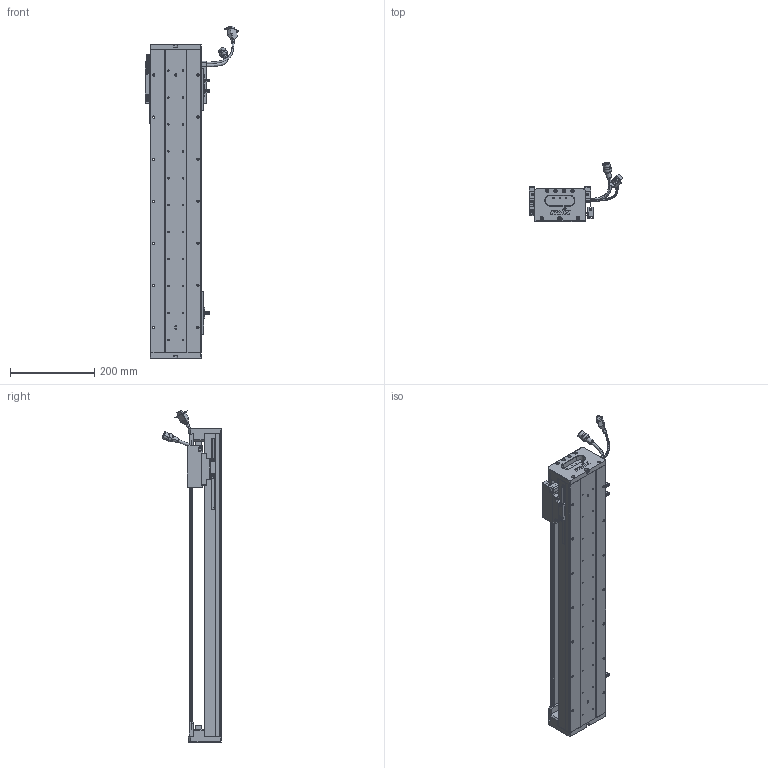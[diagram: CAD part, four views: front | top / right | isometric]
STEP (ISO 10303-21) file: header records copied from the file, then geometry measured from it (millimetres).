
FILE_DESCRIPTION (( 'STEP AP203' ), '1' );
FILE_NAME ('Z1-RY120D-1-L500-B-K.SLDASM_0550.step', '2021-05-17T03:44:56', ( '盈信电脑' ), ( '东莞市道滘镇水果街19号' ), 'SwSTEP 2.0', 'SolidWorks 2016', '' );
FILE_SCHEMA (( 'CONFIG_CONTROL_DESIGN' ));
Length unit declared in the file: millimetre
Products named in the file (37): SEAL; SCREW-M1.6-2; 140蚥薯蝶輸; Z1-RY120D-1-L500-B-K.SLDASM_0550; LABEL; SCALE; 140雄赽晤鎢ん堤盄; SHIELDPLATE; SCREW-M1.6; HARNESS; Z-RY120D詩湍奻揤裔; SCALE-Part-2; HARNESS-Part-2; Z1-RY120-L500詩湍100mm遵_0550; PBU_SHEET; HARNESS-Part-1; SEAL-Part-1; HOLDER0; PSLH080_PSLF2; 覜茼ん672; SCREW-M1.7; 080黍杅芛假蚾釱21遴; Z1-RY120铝滑块（21款）; LABEL-Part-1; 672嫖萇羲壽假蚾釱; SCREW-M1.6-3; 榋妏寠巭燃_暯_M2_2; 120-Z-臏賑輸盄裔(21遴); SCREW-M1.6-1; COVER-Part-1; Z-RY120D詩湍狟揤裔; Z1-RY120-500-倰第菁釱_0550; Z-120詩湍傷裔啣; COVER; SCREW-M1.7-1; RY100FB-遵嫖萇覜茼え; SCALE-Part-1
Assembly tree (43 placements, depth 4):
  Z1-RY120D-1-L500-B-K.SLDASM_0550
    Z1-RY120-500-倰第菁釱_0550
    覜茼ん672  x3
    672嫖萇羲壽假蚾釱  x2
    Z1-RY120铝滑块（21款）
    PSLH080_PSLF2
      SCALE
        SCALE-Part-1
        SCALE-Part-2
      HARNESS
        HARNESS-Part-1
        HARNESS-Part-2
      LABEL
        LABEL-Part-1
      COVER
        COVER-Part-1
      SEAL
        SEAL-Part-1
      榋妏寠巭燃_暯_M2_2
      SHIELDPLATE
      SCREW-M1.7
      SCREW-M1.7-1
      PBU_SHEET
      SCREW-M1.6
      SCREW-M1.6-1
      SCREW-M1.6-2
      SCREW-M1.6-3
      HOLDER0
    080黍杅芛假蚾釱21遴
    120-Z-臏賑輸盄裔(21遴)
    140雄赽晤鎢ん堤盄
    140蚥薯蝶輸  x2
    RY100FB-遵嫖萇覜茼え
    Z-120詩湍傷裔啣  x2
    Z-RY120D詩湍奻揤裔  x2
    Z-RY120D詩湍狟揤裔  x2
    Z1-RY120-L500詩湍100mm遵_0550
Bounding box: 222.88 x 140.94 x 789 mm (x, y, z)
Volume: 2147853.6 mm3; surface area: 744695.3 mm2
Topology: 38 solids, 38 shells, 2557 faces, 6820 edges, 4314 vertices
Faces by surface type: cylinder 1106, plane 1087, cone 242, torus 69, bspline 53
Entity records: 74343 total; most frequent: CARTESIAN_POINT 19116, ORIENTED_EDGE 10680, DIRECTION 10640, EDGE_CURVE 5340, AXIS2_PLACEMENT_3D 3856, VERTEX_POINT 3434, VECTOR 2928, LINE 2928
